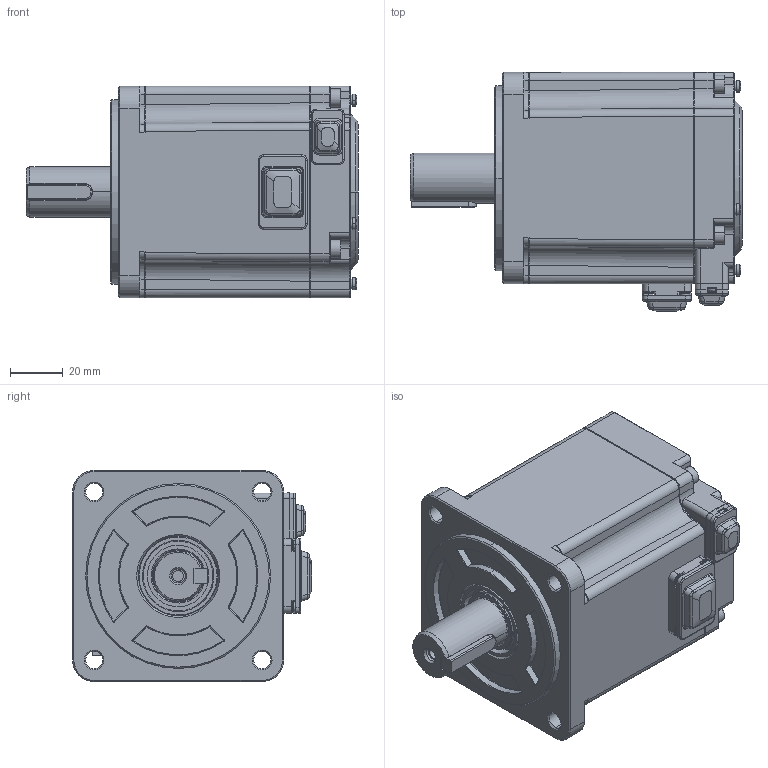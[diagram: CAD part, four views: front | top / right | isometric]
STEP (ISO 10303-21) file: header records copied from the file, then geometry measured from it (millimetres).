
FILE_DESCRIPTION (( 'STEP AP214' ), '1' );
FILE_NAME ('80梓袧軞蚾-呿脣.STEP', '2021-12-26T12:30:44', ( '' ), ( '' ), 'SwSTEP 2.0', 'SolidWorks 2021', '' );
FILE_SCHEMA (( 'AUTOMOTIVE_DESIGN' ));
Length unit declared in the file: millimetre
Products named in the file (1): 80梓袧軞蚾-呿脣
Bounding box: 125.7 x 90.5 x 80 mm (x, y, z)
Surface area: 55130.7 mm2 (no closed solid volume)
Topology: 0 solids, 47 shells, 848 faces, 2474 edges, 1617 vertices
Faces by surface type: plane 340, cylinder 284, cone 85, torus 75, bspline 55, sphere 9
Entity records: 41849 total; most frequent: CARTESIAN_POINT 10492, DIRECTION 4789, ORIENTED_EDGE 4222, EDGE_CURVE 2468, AXIS2_PLACEMENT_3D 1853, VERTEX_POINT 1616, LINE 1083, VECTOR 1083
